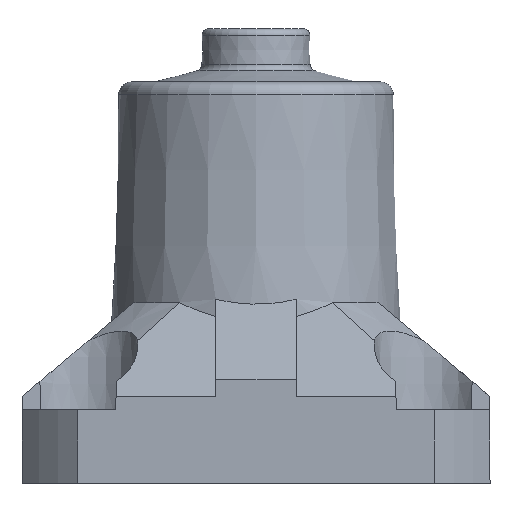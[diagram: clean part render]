
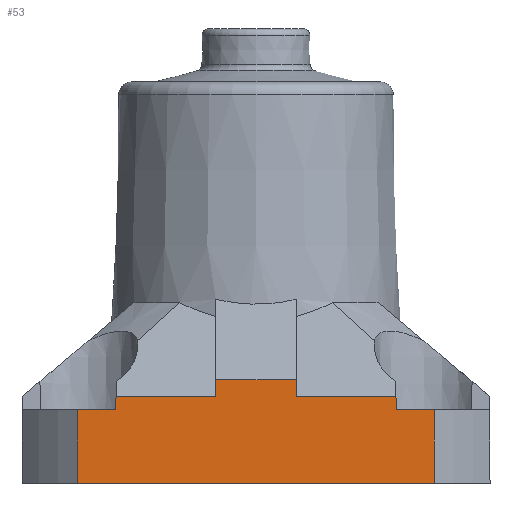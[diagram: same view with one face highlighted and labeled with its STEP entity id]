
A CAD part, left-side view. The second image highlights one B-rep face of the part: STEP entity #53.
In plain terms, the highlighted planar face has unit normal (-1, 0, 0).
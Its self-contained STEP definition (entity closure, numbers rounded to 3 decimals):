
#53=ADVANCED_FACE('',(#141),#143,.F.);
#141=FACE_BOUND('',#142,.T.);
#142=EDGE_LOOP('',(#809,#810,#811,#812,#813,#814,#815,#816,#817,#818,#819,#820));
#143=PLANE('',#144);
#144=AXIS2_PLACEMENT_3D('',#145,#146,#147);
#145=CARTESIAN_POINT('',(-35.,-44.,11.));
#146=DIRECTION('',(1.,0.,0.));
#147=DIRECTION('',(0.,0.,-1.));
#809=ORIENTED_EDGE('',*,*,#1225,.T.);
#810=ORIENTED_EDGE('',*,*,#1226,.T.);
#811=ORIENTED_EDGE('',*,*,#1227,.F.);
#812=ORIENTED_EDGE('',*,*,#1228,.F.);
#813=ORIENTED_EDGE('',*,*,#1229,.F.);
#814=ORIENTED_EDGE('',*,*,#1230,.T.);
#815=ORIENTED_EDGE('',*,*,#1231,.T.);
#816=ORIENTED_EDGE('',*,*,#1232,.T.);
#817=ORIENTED_EDGE('',*,*,#1233,.T.);
#818=ORIENTED_EDGE('',*,*,#1234,.T.);
#819=ORIENTED_EDGE('',*,*,#1235,.F.);
#820=ORIENTED_EDGE('',*,*,#1236,.T.);
#1225=EDGE_CURVE('',#1433,#1434,#1435,.T.);
#1226=EDGE_CURVE('',#1434,#1436,#1437,.F.);
#1227=EDGE_CURVE('',#1438,#1436,#1439,.F.);
#1228=EDGE_CURVE('',#1440,#1438,#1441,.F.);
#1229=EDGE_CURVE('',#1442,#1440,#1443,.T.);
#1230=EDGE_CURVE('',#1442,#1444,#1445,.F.);
#1231=EDGE_CURVE('',#1444,#1446,#1447,.T.);
#1232=EDGE_CURVE('',#1446,#1448,#1449,.T.);
#1233=EDGE_CURVE('',#1448,#1450,#1451,.T.);
#1234=EDGE_CURVE('',#1450,#1452,#1453,.T.);
#1235=EDGE_CURVE('',#1454,#1452,#1455,.T.);
#1236=EDGE_CURVE('',#1454,#1433,#1456,.T.);
#1433=VERTEX_POINT('',#1789);
#1434=VERTEX_POINT('',#1790);
#1435=LINE('',#1791,#1792);
#1436=VERTEX_POINT('',#1794);
#1437=LINE('',#1795,#1796);
#1438=VERTEX_POINT('',#1798);
#1439=LINE('',#1799,#1800);
#1440=VERTEX_POINT('',#1802);
#1441=LINE('',#1803,#1804);
#1442=VERTEX_POINT('',#1806);
#1443=LINE('',#1807,#1808);
#1444=VERTEX_POINT('',#1810);
#1445=LINE('',#1811,#1812);
#1446=VERTEX_POINT('',#1814);
#1447=LINE('',#1815,#1816);
#1448=VERTEX_POINT('',#1818);
#1449=LINE('',#1819,#1820);
#1450=VERTEX_POINT('',#1822);
#1451=LINE('',#1823,#1824);
#1452=VERTEX_POINT('',#1826);
#1453=LINE('',#1827,#1828);
#1454=VERTEX_POINT('',#1830);
#1455=LINE('',#1831,#1832);
#1456=LINE('',#1834,#1835);
#1789=CARTESIAN_POINT('',(-35.,20.93,11.));
#1790=CARTESIAN_POINT('',(-35.,21.,9.));
#1791=CARTESIAN_POINT('',(-35.,20.93,11.));
#1792=VECTOR('',#1793,1.);
#1793=DIRECTION('',(0.,0.035,-0.999));
#1794=CARTESIAN_POINT('',(-35.,26.665,9.));
#1795=CARTESIAN_POINT('',(-35.,26.665,9.));
#1796=VECTOR('',#1797,1.);
#1797=DIRECTION('',(0.,-1.,0.));
#1798=CARTESIAN_POINT('',(-35.,26.665,-2.));
#1799=CARTESIAN_POINT('',(-35.,26.665,9.));
#1800=VECTOR('',#1801,1.);
#1801=DIRECTION('',(0.,0.,-1.));
#1802=CARTESIAN_POINT('',(-35.,-26.665,-2.));
#1803=CARTESIAN_POINT('',(-35.,26.665,-2.));
#1804=VECTOR('',#1805,1.);
#1805=DIRECTION('',(0.,-1.,0.));
#1806=CARTESIAN_POINT('',(-35.,-26.665,9.));
#1807=CARTESIAN_POINT('',(-35.,-26.665,9.));
#1808=VECTOR('',#1809,1.);
#1809=DIRECTION('',(0.,0.,-1.));
#1810=CARTESIAN_POINT('',(-35.,-21.,9.));
#1811=CARTESIAN_POINT('',(-35.,-21.,9.));
#1812=VECTOR('',#1813,1.);
#1813=DIRECTION('',(0.,-1.,0.));
#1814=CARTESIAN_POINT('',(-35.,-20.93,11.));
#1815=CARTESIAN_POINT('',(-35.,-21.,9.));
#1816=VECTOR('',#1817,1.);
#1817=DIRECTION('',(0.,0.035,0.999));
#1818=CARTESIAN_POINT('',(-35.,-6.,11.));
#1819=CARTESIAN_POINT('',(-35.,-20.93,11.));
#1820=VECTOR('',#1821,1.);
#1821=DIRECTION('',(0.,1.,0.));
#1822=CARTESIAN_POINT('',(-35.,-6.,13.5));
#1823=CARTESIAN_POINT('',(-35.,-6.,11.));
#1824=VECTOR('',#1825,1.);
#1825=DIRECTION('',(0.,0.,1.));
#1826=CARTESIAN_POINT('',(-35.,6.,13.5));
#1827=CARTESIAN_POINT('',(-35.,-6.,13.5));
#1828=VECTOR('',#1829,1.);
#1829=DIRECTION('',(0.,1.,0.));
#1830=CARTESIAN_POINT('',(-35.,6.,11.));
#1831=CARTESIAN_POINT('',(-35.,6.,11.));
#1832=VECTOR('',#1833,1.);
#1833=DIRECTION('',(0.,0.,1.));
#1834=CARTESIAN_POINT('',(-35.,6.,11.));
#1835=VECTOR('',#1836,1.);
#1836=DIRECTION('',(0.,1.,0.));
